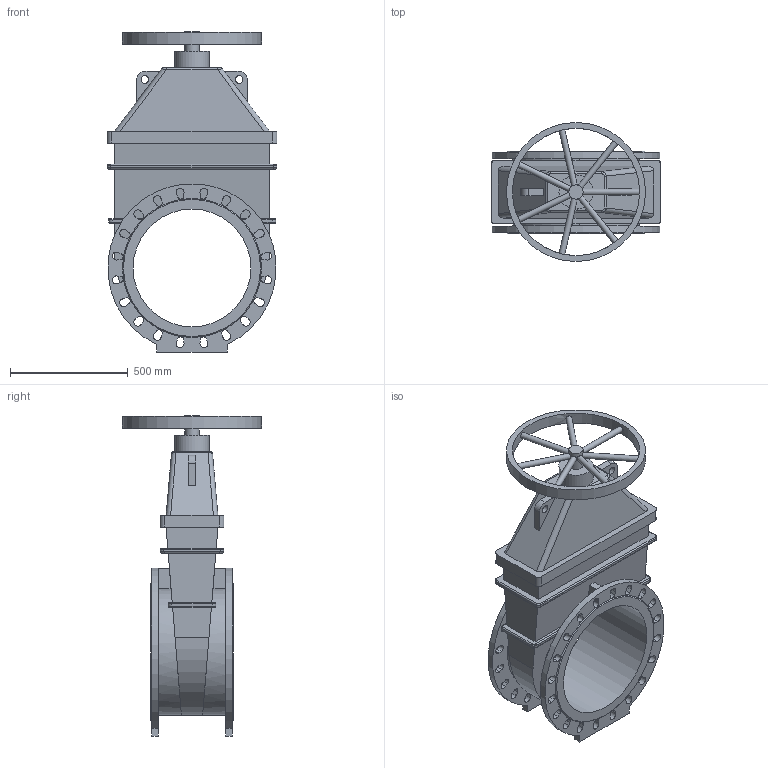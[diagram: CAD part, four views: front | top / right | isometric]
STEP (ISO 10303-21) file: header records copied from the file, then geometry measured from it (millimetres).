
FILE_DESCRIPTION(('STEP AP203'), '1');
FILE_NAME('Çàäâèæêà 47GV.Z DN500 PN10_PN16 ñ ìàõîâèêîì', '', ('UNSPECIFIED'), ('UNSPECIFIED'), 'ASCON STEP Converter 1.6', 'ASCON Math Kernel', '');
FILE_SCHEMA(('CONFIG_CONTROL_DESIGN'));
Length unit declared in the file: millimetre
Bounding box: 720 x 590 x 1360 mm (x, y, z)
Volume: 106671343.3 mm3; surface area: 3789391.7 mm2
Topology: 1 solids, 1 shells, 318 faces, 867 edges, 564 vertices
Faces by surface type: plane 155, cylinder 141, bspline 16, torus 4, cone 2
Full cylindrical faces by diameter (mm): 25 x7, 32 x2, 60 x1, 145 x1, 500 x1, 540 x1, 590 x1
Entity records: 15823 total; most frequent: CARTESIAN_POINT 5070, ORIENTED_EDGE 1700, DIRECTION 1636, EDGE_CURVE 850, VERTEX_POINT 564, AXIS2_PLACEMENT_3D 553, LINE 530, VECTOR 530
